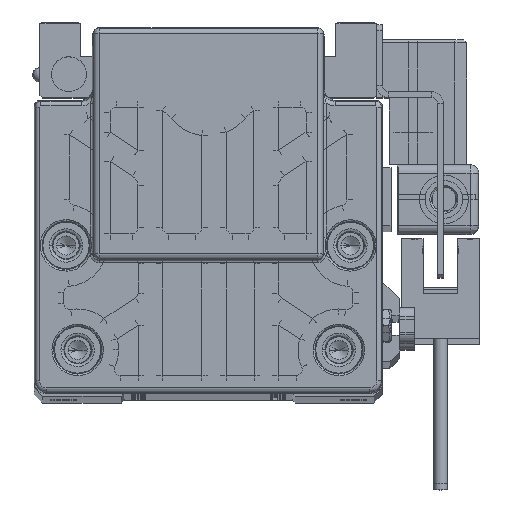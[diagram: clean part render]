
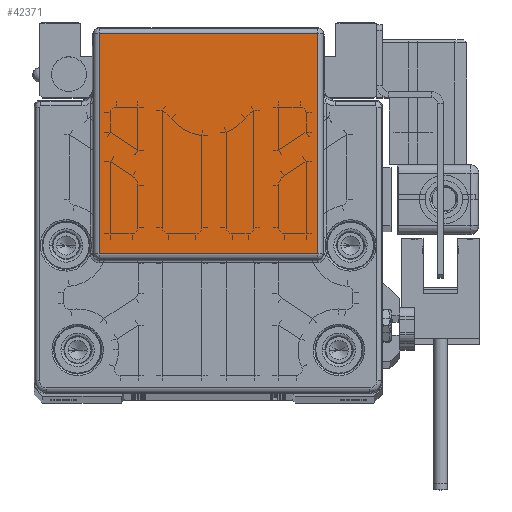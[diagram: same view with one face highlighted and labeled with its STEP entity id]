
A CAD part, top view. The second image highlights one B-rep face of the part: STEP entity #42371.
In plain terms, the highlighted planar face has unit normal (0, 0, 1) as drawn and (0, 0, -1) by its records, which use the part's own axes.
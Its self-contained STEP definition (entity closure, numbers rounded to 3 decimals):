
#4909 = CARTESIAN_POINT ( 'NONE',  ( 18.808, 62.447, -143. ) ) ;
#9706 = ORIENTED_EDGE ( 'NONE', *, *, #53870, .F. ) ;
#12027 = CARTESIAN_POINT ( 'NONE',  ( -18.808, 62.447, -143. ) ) ;
#15064 = CARTESIAN_POINT ( 'NONE',  ( 18.808, 24.5, -143. ) ) ;
#16036 = LINE ( 'NONE', #70440, #66362 ) ;
#18028 = ORIENTED_EDGE ( 'NONE', *, *, #58102, .F. ) ;
#20707 = DIRECTION ( 'NONE',  ( 0., -1., 0. ) ) ;
#20781 = LINE ( 'NONE', #54036, #28559 ) ;
#21226 = DIRECTION ( 'NONE',  ( 0., 1., 0. ) ) ;
#26268 = FACE_OUTER_BOUND ( 'NONE', #64218, .T. ) ;
#26520 = DIRECTION ( 'NONE',  ( 1., 0., 0. ) ) ;
#26615 = CARTESIAN_POINT ( 'NONE',  ( 19., 24.5, -143. ) ) ;
#27625 = CARTESIAN_POINT ( 'NONE',  ( 18.808, 24.518, -143. ) ) ;
#28527 = ORIENTED_EDGE ( 'NONE', *, *, #52470, .T. ) ;
#28559 = VECTOR ( 'NONE', #26520, 1000. ) ;
#30185 = VECTOR ( 'NONE', #59466, 1000. ) ;
#30330 = LINE ( 'NONE', #52862, #48730 ) ;
#33061 = ORIENTED_EDGE ( 'NONE', *, *, #35925, .F. ) ;
#35925 = EDGE_CURVE ( 'NONE', #39304, #46750, #30330, .T. ) ;
#39304 = VERTEX_POINT ( 'NONE', #65726 ) ;
#42371 = ADVANCED_FACE ( 'NONE', ( #26268 ), #48076, .T. ) ;
#43426 = DIRECTION ( 'NONE',  ( 0., 0., -1. ) ) ;
#46750 = VERTEX_POINT ( 'NONE', #27625 ) ;
#48076 = PLANE ( 'NONE',  #57133 ) ;
#48730 = VECTOR ( 'NONE', #68632, 1000. ) ;
#52470 = EDGE_CURVE ( 'NONE', #58450, #61334, #20781, .T. ) ;
#52862 = CARTESIAN_POINT ( 'NONE',  ( 19., 24.518, -143. ) ) ;
#53870 = EDGE_CURVE ( 'NONE', #58450, #39304, #16036, .T. ) ;
#54036 = CARTESIAN_POINT ( 'NONE',  ( 19., 62.447, -143. ) ) ;
#57133 = AXIS2_PLACEMENT_3D ( 'NONE', #26615, #43426, #21226 ) ;
#58102 = EDGE_CURVE ( 'NONE', #46750, #61334, #59806, .T. ) ;
#58450 = VERTEX_POINT ( 'NONE', #12027 ) ;
#59466 = DIRECTION ( 'NONE',  ( 0., 1., 0. ) ) ;
#59806 = LINE ( 'NONE', #15064, #30185 ) ;
#61334 = VERTEX_POINT ( 'NONE', #4909 ) ;
#64218 = EDGE_LOOP ( 'NONE', ( #18028, #33061, #9706, #28527 ) ) ;
#65726 = CARTESIAN_POINT ( 'NONE',  ( -18.808, 24.518, -143. ) ) ;
#66362 = VECTOR ( 'NONE', #20707, 1000. ) ;
#68632 = DIRECTION ( 'NONE',  ( 1., 0., 0. ) ) ;
#70440 = CARTESIAN_POINT ( 'NONE',  ( -18.808, 31., -143. ) ) ;
